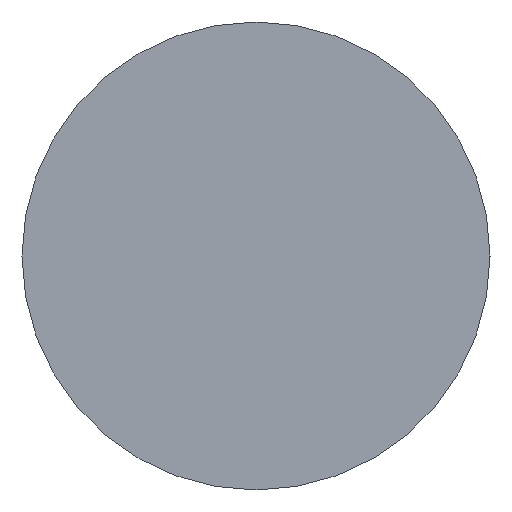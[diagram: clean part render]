
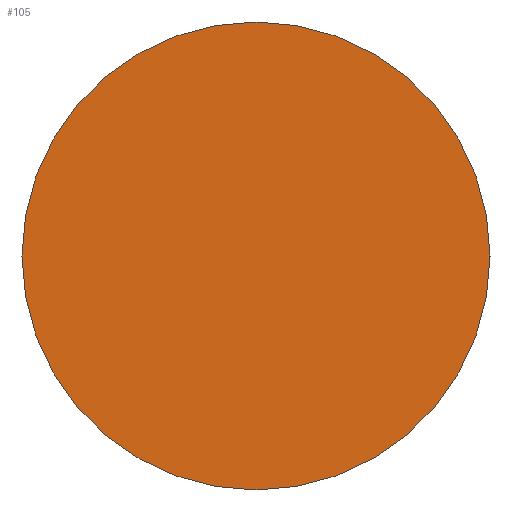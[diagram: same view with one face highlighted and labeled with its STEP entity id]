
A CAD part, left-side view. The second image highlights one B-rep face of the part: STEP entity #105.
In plain terms, the highlighted planar face has unit normal (-1, 0, 0).
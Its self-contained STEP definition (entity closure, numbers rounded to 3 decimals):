
#22 = VERTEX_POINT('',#23);
#23 = CARTESIAN_POINT('',(57.,5.,1200.));
#32 = CYLINDRICAL_SURFACE('',#33,5.);
#33 = AXIS2_PLACEMENT_3D('',#34,#35,#36);
#34 = CARTESIAN_POINT('',(57.,0.,1200.));
#35 = DIRECTION('',(-1.,-0.,-0.));
#36 = DIRECTION('',(0.,1.,0.));
#79 = EDGE_CURVE('',#22,#22,#80,.T.);
#80 = SURFACE_CURVE('',#81,(#86,#93),.PCURVE_S1.);
#81 = CIRCLE('',#82,5.);
#82 = AXIS2_PLACEMENT_3D('',#83,#84,#85);
#83 = CARTESIAN_POINT('',(57.,0.,1200.));
#84 = DIRECTION('',(1.,0.,0.));
#85 = DIRECTION('',(0.,1.,0.));
#86 = PCURVE('',#32,#87);
#87 = DEFINITIONAL_REPRESENTATION('',(#88),#92);
#88 = LINE('',#89,#90);
#89 = CARTESIAN_POINT('',(-0.,0.));
#90 = VECTOR('',#91,1.);
#91 = DIRECTION('',(-1.,0.));
#92 = ( GEOMETRIC_REPRESENTATION_CONTEXT(2) 
PARAMETRIC_REPRESENTATION_CONTEXT() REPRESENTATION_CONTEXT('2D SPACE',''
  ) );
#93 = PCURVE('',#94,#99);
#94 = PLANE('',#95);
#95 = AXIS2_PLACEMENT_3D('',#96,#97,#98);
#96 = CARTESIAN_POINT('',(57.,0.,1200.));
#97 = DIRECTION('',(1.,0.,0.));
#98 = DIRECTION('',(-0.,0.,1.));
#99 = DEFINITIONAL_REPRESENTATION('',(#100),#104);
#100 = CIRCLE('',#101,5.);
#101 = AXIS2_PLACEMENT_2D('',#102,#103);
#102 = CARTESIAN_POINT('',(0.,0.));
#103 = DIRECTION('',(0.,-1.));
#104 = ( GEOMETRIC_REPRESENTATION_CONTEXT(2) 
PARAMETRIC_REPRESENTATION_CONTEXT() REPRESENTATION_CONTEXT('2D SPACE',''
  ) );
#105 = ADVANCED_FACE('',(#106),#94,.F.);
#106 = FACE_BOUND('',#107,.F.);
#107 = EDGE_LOOP('',(#108));
#108 = ORIENTED_EDGE('',*,*,#79,.T.);
